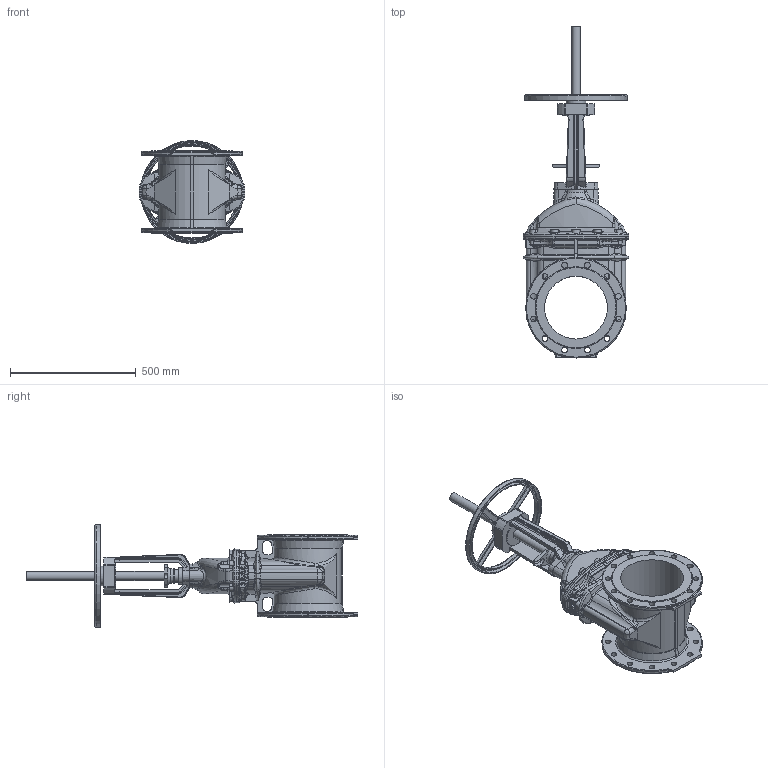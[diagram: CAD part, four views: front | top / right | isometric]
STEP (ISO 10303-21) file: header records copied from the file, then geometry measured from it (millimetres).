
FILE_DESCRIPTION (( 'STEP AP203' ), '1' );
FILE_NAME ('O_21_34_DN250_40XXXXX open_AA0.step', '2020-02-12T09:26:25', ( 'Windows User' ), ( 'AVK' ), 'SwSTEP 2.0', 'SolidWorks 2012', '' );
FILE_SCHEMA (( 'CONFIG_CONTROL_DESIGN' ));
Length unit declared in the file: millimetre
Products named in the file (1): O_21_34_DN250_40XXXXX open_AA0
Bounding box: 421.93 x 1321.5 x 409.98 mm (x, y, z)
Volume: 25121062.1 mm3; surface area: 1744022.3 mm2
Topology: 1 solids, 1 shells, 1053 faces, 2698 edges, 1657 vertices
Faces by surface type: bspline 348, plane 268, cylinder 195, cone 146, torus 94, sphere 2
Full cylindrical faces by diameter (mm): 23 x24, 36 x2, 51.9 x1, 58 x1, 64 x1, 77 x1, 105 x2, 250 x1
Entity records: 47114 total; most frequent: CARTESIAN_POINT 25017, ORIENTED_EDGE 5212, DIRECTION 3791, EDGE_CURVE 2606, VERTEX_POINT 1621, AXIS2_PLACEMENT_3D 1519, EDGE_LOOP 1185, FACE_OUTER_BOUND 1094
